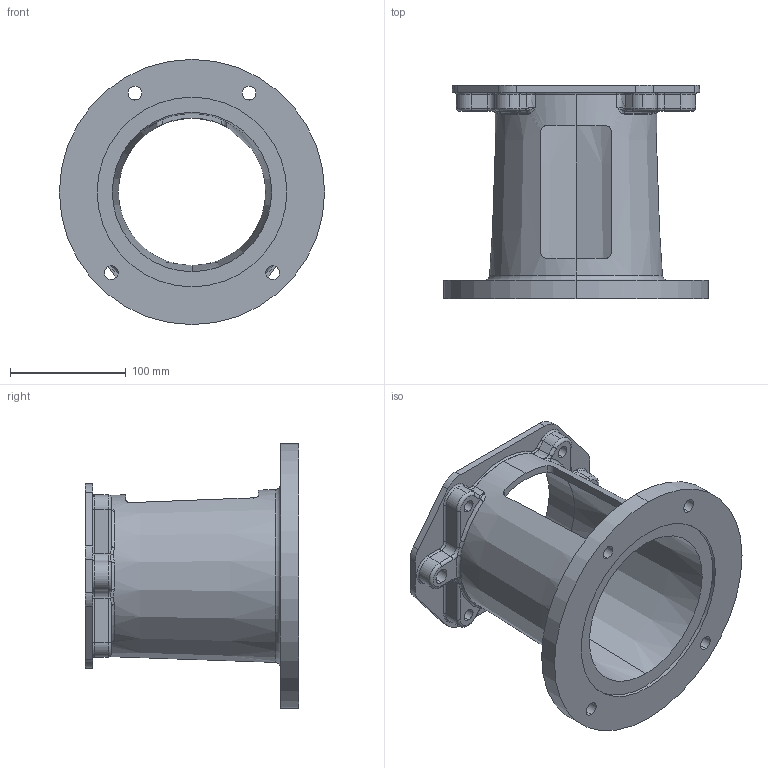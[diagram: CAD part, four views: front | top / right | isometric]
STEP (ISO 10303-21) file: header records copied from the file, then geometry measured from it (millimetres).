
FILE_DESCRIPTION (( 'STEP AP203' ), '1' );
FILE_NAME ('E644722C.STEP', '2014-11-03T18:58:55', ( '' ), ( '' ), 'SwSTEP 2.0', 'SolidWorks 2014', '' );
FILE_SCHEMA (( 'CONFIG_CONTROL_DESIGN' ));
Length unit declared in the file: inch
Products named in the file (1): E644722C
Bounding box: 228.6 x 184.15 x 228.6 mm (x, y, z)
Volume: 948990 mm3; surface area: 238258.7 mm2
Topology: 1 solids, 1 shells, 181 faces, 460 edges, 278 vertices
Faces by surface type: cylinder 74, torus 44, plane 35, bspline 24, cone 4
Entity records: 6781 total; most frequent: CARTESIAN_POINT 2390, DIRECTION 934, ORIENTED_EDGE 912, EDGE_CURVE 456, AXIS2_PLACEMENT_3D 396, VERTEX_POINT 278, CIRCLE 238, EDGE_LOOP 206
